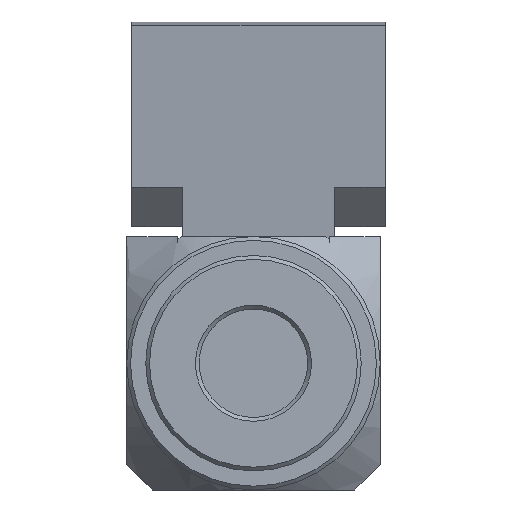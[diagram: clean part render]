
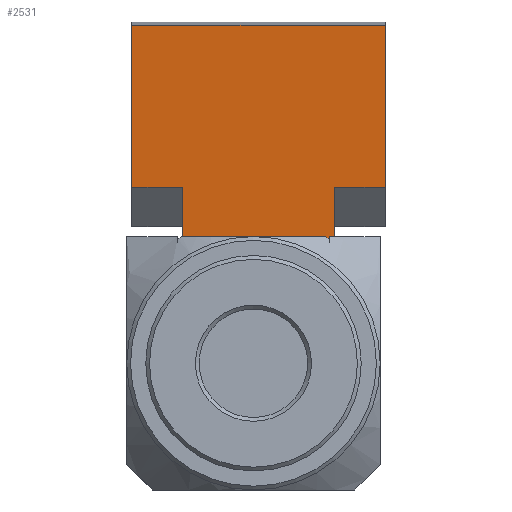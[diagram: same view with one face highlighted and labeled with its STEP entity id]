
A CAD part, front view. The second image highlights one B-rep face of the part: STEP entity #2531.
In plain terms, the highlighted planar face has unit normal (0, -0.996, -0.087) as drawn and (0, -1, 0) by its records, which use the part's own axes.
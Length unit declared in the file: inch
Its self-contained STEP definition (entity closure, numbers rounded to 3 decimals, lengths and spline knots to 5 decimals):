
#173=PLANE('',#2927);
#307=FACE_OUTER_BOUND('',#467,.T.);
#467=EDGE_LOOP('',(#1892,#1893,#1894,#1895,#1896,#1897,#1898,#1899));
#638=LINE('',#4224,#829);
#649=LINE('',#4249,#840);
#655=LINE('',#4261,#846);
#656=LINE('',#4264,#847);
#657=LINE('',#4266,#848);
#658=LINE('',#4267,#849);
#659=LINE('',#4269,#850);
#660=LINE('',#4270,#851);
#829=VECTOR('',#3332,0.3937);
#840=VECTOR('',#3353,0.3937);
#846=VECTOR('',#3361,0.3937);
#847=VECTOR('',#3364,0.3937);
#848=VECTOR('',#3365,0.3937);
#849=VECTOR('',#3366,0.3937);
#850=VECTOR('',#3367,0.3937);
#851=VECTOR('',#3368,0.3937);
#1183=VERTEX_POINT('',#4221);
#1184=VERTEX_POINT('',#4223);
#1193=VERTEX_POINT('',#4248);
#1196=VERTEX_POINT('',#4255);
#1198=VERTEX_POINT('',#4259);
#1199=VERTEX_POINT('',#4263);
#1200=VERTEX_POINT('',#4265);
#1201=VERTEX_POINT('',#4268);
#1445=EDGE_CURVE('',#1184,#1183,#638,.T.);
#1458=EDGE_CURVE('',#1184,#1193,#649,.T.);
#1464=EDGE_CURVE('',#1196,#1198,#655,.T.);
#1465=EDGE_CURVE('',#1183,#1199,#656,.T.);
#1466=EDGE_CURVE('',#1200,#1199,#657,.T.);
#1467=EDGE_CURVE('',#1200,#1196,#658,.T.);
#1468=EDGE_CURVE('',#1201,#1198,#659,.T.);
#1469=EDGE_CURVE('',#1201,#1193,#660,.T.);
#1892=ORIENTED_EDGE('',*,*,#1465,.T.);
#1893=ORIENTED_EDGE('',*,*,#1466,.F.);
#1894=ORIENTED_EDGE('',*,*,#1467,.T.);
#1895=ORIENTED_EDGE('',*,*,#1464,.T.);
#1896=ORIENTED_EDGE('',*,*,#1468,.F.);
#1897=ORIENTED_EDGE('',*,*,#1469,.T.);
#1898=ORIENTED_EDGE('',*,*,#1458,.F.);
#1899=ORIENTED_EDGE('',*,*,#1445,.T.);
#2531=ADVANCED_FACE('',(#307),#173,.T.);
#2927=AXIS2_PLACEMENT_3D('',#4262,#3362,#3363);
#3332=DIRECTION('',(0.,0.,1.));
#3353=DIRECTION('',(-1.,0.,0.));
#3361=DIRECTION('',(0.,0.,1.));
#3362=DIRECTION('center_axis',(0.,-1.,0.));
#3363=DIRECTION('ref_axis',(1.,0.,0.));
#3364=DIRECTION('',(1.,0.,0.));
#3365=DIRECTION('',(0.,0.,-1.));
#3366=DIRECTION('',(-1.,0.,0.));
#3367=DIRECTION('',(1.,0.,0.));
#3368=DIRECTION('',(0.,0.,-1.));
#4221=CARTESIAN_POINT('',(0.50527,0.,-0.23622));
#4223=CARTESIAN_POINT('',(0.50527,0.,-0.3937));
#4224=CARTESIAN_POINT('',(0.50527,0.,-0.19685));
#4248=CARTESIAN_POINT('',(0.,0.,-0.3937));
#4249=CARTESIAN_POINT('',(0.7874,0.,-0.3937));
#4255=CARTESIAN_POINT('',(0.50527,0.,0.23622));
#4259=CARTESIAN_POINT('',(0.50527,0.,0.3937));
#4261=CARTESIAN_POINT('',(0.50527,0.,0.19685));
#4262=CARTESIAN_POINT('Origin',(0.,0.,0.));
#4263=CARTESIAN_POINT('',(0.7874,0.,-0.23622));
#4264=CARTESIAN_POINT('',(0.28872,0.,-0.23622));
#4265=CARTESIAN_POINT('',(0.7874,0.,0.23622));
#4266=CARTESIAN_POINT('',(0.7874,0.,0.));
#4267=CARTESIAN_POINT('',(0.28872,0.,0.23622));
#4268=CARTESIAN_POINT('',(0.,0.,0.3937));
#4269=CARTESIAN_POINT('',(0.7874,0.,0.3937));
#4270=CARTESIAN_POINT('',(0.,0.,0.));
